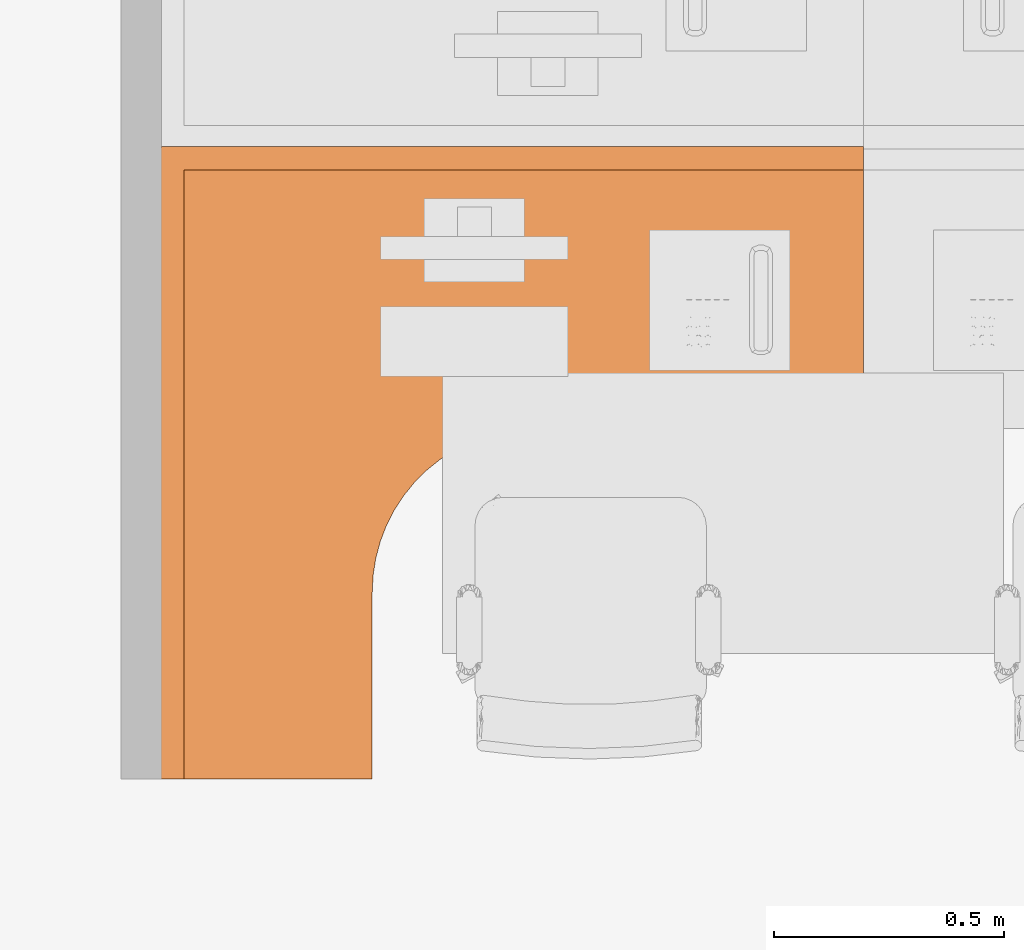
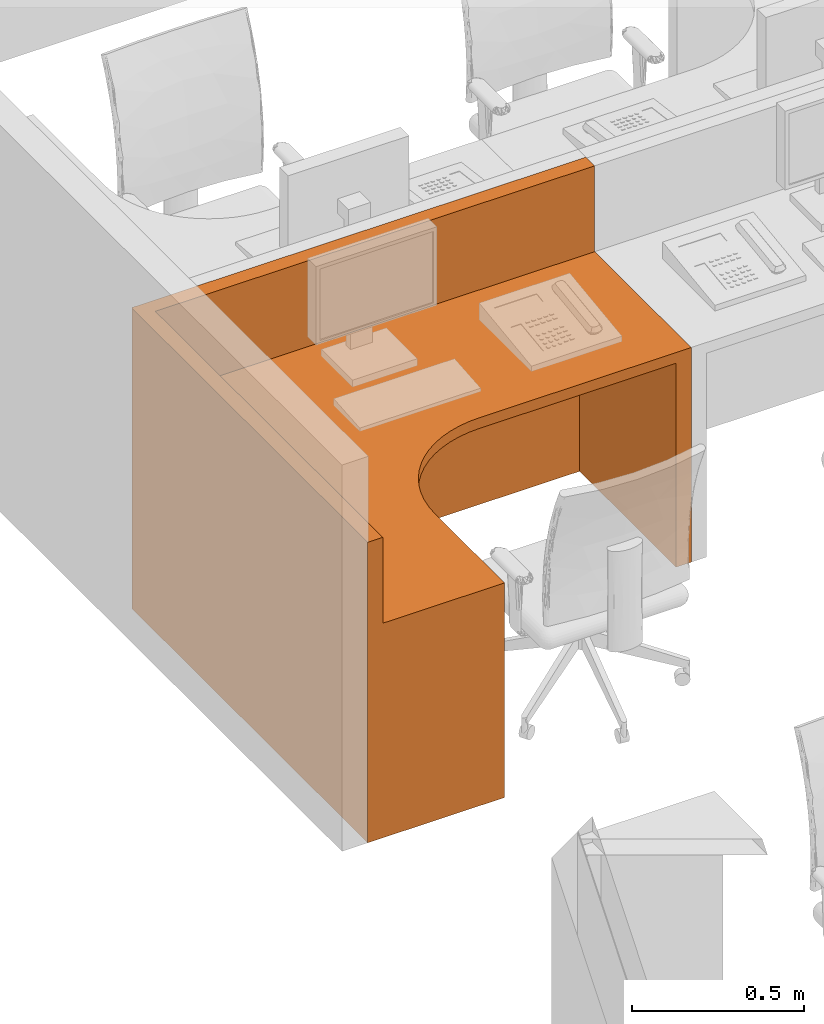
# One storey, part 26 of 142: 1 proxy.
"""IFC2X3 building model written with IfcOpenShell, lengths in feet."""

from ifc_helpers import new_model, entity, si_unit, converted_unit, derived_unit, direction, frame, frame_2d, origin, place, context, subcontext, project, spatial, polyline, circle_curve, parameter, trimmed, segment, composite_curve, rectangle, outline, extrude, source, transform, mapped, type_object, type_shapes, element, save


model = new_model("IFC2X3")

# Units and contexts
model_context = context("Model", 3, precision=0.0001, world=origin(), true_north=direction((6.12303176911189e-17, 1.0)))
body_context = subcontext(model_context, "Body", "Model", "MODEL_VIEW")
ifc_project = project(units=[converted_unit("LENGTHUNIT", "FOOT", entity("IfcRatioMeasure", 0.3048), si_unit("LENGTHUNIT", "METRE"), dimensions=[1, 0, 0, 0, 0, 0, 0]), converted_unit("AREAUNIT", "SQUARE FOOT", entity("IfcRatioMeasure", 0.09290304), si_unit("AREAUNIT", "SQUARE_METRE"), dimensions=[2, 0, 0, 0, 0, 0, 0]), converted_unit("VOLUMEUNIT", "CUBIC FOOT", entity("IfcRatioMeasure", 0.028316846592), si_unit("VOLUMEUNIT", "CUBIC_METRE"), dimensions=[3, 0, 0, 0, 0, 0, 0]), converted_unit("PLANEANGLEUNIT", "DEGREE", entity("IfcRatioMeasure", 0.0174532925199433), si_unit("PLANEANGLEUNIT", "RADIAN"), dimensions=[0, 0, 0, 0, 0, 0, 0]), si_unit("MASSUNIT", "GRAM", prefix="KILO"), derived_unit("MASSDENSITYUNIT", [(si_unit("MASSUNIT", "GRAM", prefix="KILO"), 1), (si_unit("LENGTHUNIT", "METRE"), -3)]), si_unit("TIMEUNIT", "SECOND"), si_unit("FREQUENCYUNIT", "HERTZ"), si_unit("THERMODYNAMICTEMPERATUREUNIT", "DEGREE_CELSIUS"), derived_unit("THERMALTRANSMITTANCEUNIT", [(si_unit("MASSUNIT", "GRAM", prefix="KILO"), 1), (si_unit("THERMODYNAMICTEMPERATUREUNIT", "KELVIN"), -1), (si_unit("TIMEUNIT", "SECOND"), -3)]), derived_unit("VOLUMETRICFLOWRATEUNIT", [(si_unit("LENGTHUNIT", "METRE"), 3), (si_unit("TIMEUNIT", "SECOND"), -1)]), si_unit("ELECTRICCURRENTUNIT", "AMPERE"), si_unit("ELECTRICVOLTAGEUNIT", "VOLT"), si_unit("POWERUNIT", "WATT"), si_unit("FORCEUNIT", "NEWTON"), si_unit("ILLUMINANCEUNIT", "LUX"), si_unit("LUMINOUSFLUXUNIT", "LUMEN"), si_unit("LUMINOUSINTENSITYUNIT", "CANDELA"), derived_unit("USERDEFINED", [(si_unit("MASSUNIT", "GRAM", prefix="KILO"), -1), (si_unit("LENGTHUNIT", "METRE"), -2), (si_unit("TIMEUNIT", "SECOND"), 3), (si_unit("LUMINOUSFLUXUNIT", "LUMEN"), 1)]), derived_unit("LINEARVELOCITYUNIT", [(si_unit("LENGTHUNIT", "METRE"), 1), (si_unit("TIMEUNIT", "SECOND"), -1)]), si_unit("PRESSUREUNIT", "PASCAL"), derived_unit("USERDEFINED", [(si_unit("LENGTHUNIT", "METRE"), -2), (si_unit("MASSUNIT", "GRAM", prefix="KILO"), 1), (si_unit("TIMEUNIT", "SECOND"), -2)])], contexts=[model_context])

# Site, building, storey, space
site_placement = place(None, origin())
site = spatial("IfcSite", under=ifc_project, at=site_placement, Name="Default", CompositionType="ELEMENT")
building_placement = place(site_placement, origin())
building = spatial("IfcBuilding", under=site, at=building_placement, Name="OUTPATIENT / PACT CLINIC (Ch. 265)", CompositionType="ELEMENT")
storey_placement = place(building_placement, origin())
storey = spatial("IfcBuildingStorey", under=building, at=storey_placement, Name="LEVEL 1", CompositionType="ELEMENT", Elevation=0.0)
space_placement = place(storey_placement, origin())
space = spatial("IfcSpace", under=storey, at=space_placement, Name="WRTM1", CompositionType="ELEMENT", InteriorOrExteriorSpace="INTERNAL")

# Proxy
building_element_proxy_type = type_object("IfcBuildingElementProxyType", Name="U0075 - Workstation, L-Shaped, Freestanding, 60x54", PredefinedType="NOTDEFINED")
shared_shape = source(origin(), body_context, "Body", "SweptSolid", [
    extrude(rectangle(XDim=2.0, YDim=0.166666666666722, at=frame_2d((-1.11022302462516e-16, -1.3836154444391e-14), x_axis=(1.0, 0.0))), frame((0.0833333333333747, 1.0, 0.0), z_axis=(0.0, 0.0, 1.0), x_axis=(0.0, 1.0, 0.0)), (0.0, 0.0, 1.0), 2.375),
    extrude(rectangle(XDim=1.5, YDim=0.166666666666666, at=frame_2d((-4.44089209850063e-16, 0.0), x_axis=(1.0, 0.0))), frame((4.25000000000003, 4.41666666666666, 0.0), z_axis=(0.0, 0.0, 1.0), x_axis=(-1.0, 0.0, 0.0)), (0.0, 0.0, 1.0), 2.37499999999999),
    extrude(outline(composite_curve([segment(polyline([(-2.3095238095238, -2.23809523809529), (2.19047619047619, -2.23809523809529)]), True, "CONTINUOUS"), segment(polyline([(2.19047619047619, -2.23809523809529), (2.19047619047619, -0.738095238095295)]), True, "CONTINUOUS"), segment(polyline([(2.19047619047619, -0.738095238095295), (0.857142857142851, -0.738095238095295)]), True, "CONTINUOUS"), segment(trimmed(circle_curve(frame_2d((0.857142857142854, 0.428571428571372), x_axis=(0.0, 1.0)), 1.16666666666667), [parameter(90.0)], [parameter(180.0)], True, "PARAMETER"), False, "CONTINUOUS"), segment(polyline([(-0.309523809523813, 0.428571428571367), (-0.309523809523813, 2.7619047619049)]), True, "CONTINUOUS"), segment(polyline([(-0.309523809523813, 2.7619047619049), (-2.3095238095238, 2.7619047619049)]), True, "CONTINUOUS"), segment(polyline([(-2.3095238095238, 2.7619047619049), (-2.3095238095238, -2.23809523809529)]), True, "CONTINUOUS")], self_intersect=False)), frame((2.76190476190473, 2.30952380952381, 2.37499999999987), z_axis=(0.0, 0.0, 1.0), x_axis=(0.0, 1.0, 0.0)), (0.0, 0.0, 1.0), 0.125),
    extrude(outline(polyline([(-2.16666666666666, -2.16666666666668), (2.33333333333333, -2.16666666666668), (2.33333333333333, -0.666666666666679), (-0.16666666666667, -0.666666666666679), (-0.16666666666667, 2.83333333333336), (-2.16666666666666, 2.83333333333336), (-2.16666666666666, -2.16666666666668)])), frame((2.83333333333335, 2.16666666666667, 2.37499999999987), z_axis=(0.0, 0.0, 1.0), x_axis=(0.0, 1.0, 0.0)), (0.0, 0.0, 1.0), 0.125),
    extrude(rectangle(XDim=0.166666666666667, YDim=5.00000000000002, at=frame_2d((2.77555756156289e-17, -2.22044604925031e-16), x_axis=(1.0, 0.0))), frame((2.49999999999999, 0.0750000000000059, 0.0), z_axis=(0.0, 0.0, 1.0), x_axis=(0.0, 1.0, 0.0)), (0.0, 0.0, 1.0), 3.5),
    extrude(rectangle(XDim=0.166666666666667, YDim=4.50000000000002, at=frame_2d((4.44089209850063e-16, 2.22044604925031e-16), x_axis=(1.0, 0.0))), frame((4.92500000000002, 2.25000000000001, 0.0), z_axis=(0.0, 0.0, 1.0), x_axis=(-1.0, 0.0, 0.0)), (0.0, 0.0, 1.0), 3.5),
])
type_shapes(building_element_proxy_type, [shared_shape])
proxy_placement = place(space_placement, frame((414.359283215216, -922.628851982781, 0.0), z_axis=(0.0, 0.0, 1.0), x_axis=(-1.0, 0.0, 0.0)))
element("IfcBuildingElementProxy", 1, at=proxy_placement, inside=space, type_object=building_element_proxy_type, Name="U0075 - Workstation, L-Shaped, Freestanding, 60x54:U0075 - Workstation, L-Shaped, Freestanding, 60x54", ObjectType="U0075 - Workstation, L-Shaped, Freestanding, 60x54", context=body_context, shape_type="MappedRepresentation", body=[
    mapped(shared_shape, transform((0.0, 0.0, 0.0), scale=1.0)),
])

save(model, "model.ifc")
